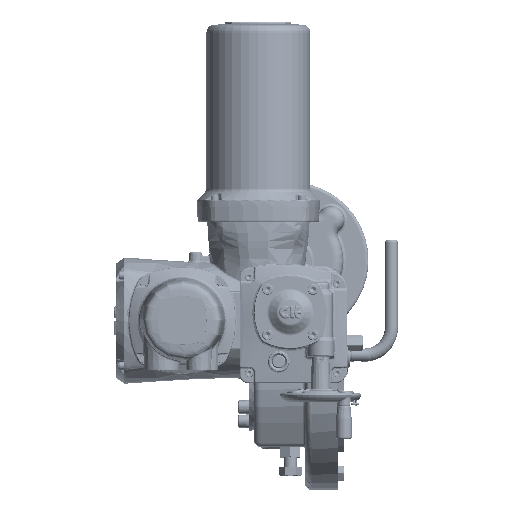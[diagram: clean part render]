
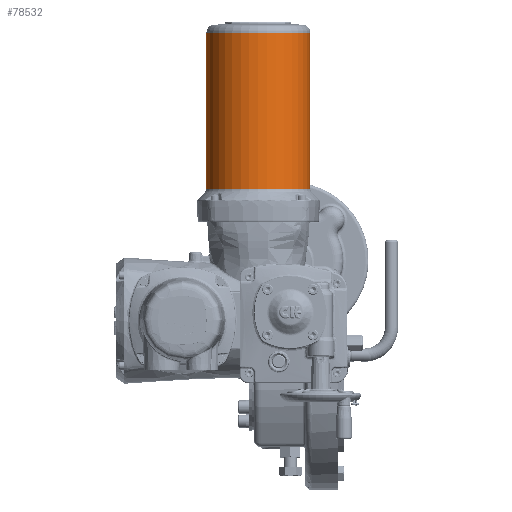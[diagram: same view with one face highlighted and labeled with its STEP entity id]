
A CAD part, top view. The second image highlights one B-rep face of the part: STEP entity #78532.
In plain terms, the highlighted cylindrical face has radius 63 mm (diameter 126 mm), a full revolution.
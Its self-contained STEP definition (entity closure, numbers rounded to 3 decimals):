
#14185=B_SPLINE_CURVE_WITH_KNOTS('',3,(#173350,#173351,#173352,#173353,
#173354,#173355,#173356,#173357,#173358,#173359,#173360,#173361,#173362,
#173363,#173364,#173365,#173366,#173367,#173368,#173369,#173370,#173371,
#173372,#173373,#173374,#173375,#173376,#173377,#173378,#173379,#173380,
#173381,#173382,#173383,#173384,#173385),.UNSPECIFIED.,.T.,.F.,(1,1,1,1,
1,1,1,1,1,1,1,1,1,1,1,1,1,1,1,1,1,1,1,1,1,1,1,1,1,1,1,1,1,1,1,1,1,1,1,1),
(-0.095,-0.064,-0.033,0.,0.03,
0.061,0.092,0.123,0.155,0.186,
0.217,0.233,0.248,0.28,
0.311,0.342,0.373,0.405,
0.436,0.467,0.498,0.53,
0.561,0.592,0.623,0.655,
0.686,0.717,0.748,0.78,
0.811,0.842,0.873,0.905,
0.936,0.967,1.,1.03,1.061,1.092),
 .UNSPECIFIED.);
#16435=CYLINDRICAL_SURFACE('',#107424,63.);
#30532=ORIENTED_EDGE('',*,*,#47665,.T.);
#30533=ORIENTED_EDGE('',*,*,#47666,.T.);
#30534=ORIENTED_EDGE('',*,*,#47638,.T.);
#47638=EDGE_CURVE('',#65838,#65838,#54881,.T.);
#47665=EDGE_CURVE('',#65860,#65860,#54891,.T.);
#47666=EDGE_CURVE('',#65861,#65861,#14185,.T.);
#54881=CIRCLE('',#107402,63.);
#54891=CIRCLE('',#107425,63.);
#58881=EDGE_LOOP('',(#30532));
#58882=EDGE_LOOP('',(#30533));
#58883=EDGE_LOOP('',(#30534));
#65838=VERTEX_POINT('',#173287);
#65860=VERTEX_POINT('',#173349);
#65861=VERTEX_POINT('',#173386);
#72580=FACE_BOUND('',#58881,.T.);
#72581=FACE_BOUND('',#58882,.T.);
#72582=FACE_BOUND('',#58883,.T.);
#78532=ADVANCED_FACE('',(#72580,#72581,#72582),#16435,.T.);
#107402=AXIS2_PLACEMENT_3D('',#173286,#120025,#120026);
#107424=AXIS2_PLACEMENT_3D('',#173347,#120086,#120087);
#107425=AXIS2_PLACEMENT_3D('',#173348,#120088,#120089);
#120025=DIRECTION('',(0.,1.,0.));
#120026=DIRECTION('',(-1.,0.,0.));
#120086=DIRECTION('',(0.,1.,0.));
#120087=DIRECTION('',(-1.,0.,0.));
#120088=DIRECTION('',(0.,-1.,0.));
#120089=DIRECTION('',(1.,0.,0.));
#173286=CARTESIAN_POINT('',(-38.8,150.002,-22.4));
#173287=CARTESIAN_POINT('',(-101.8,150.002,-22.4));
#173347=CARTESIAN_POINT('',(-38.8,81.9,-22.4));
#173348=CARTESIAN_POINT('',(-38.8,339.4,-22.4));
#173349=CARTESIAN_POINT('',(24.2,339.4,-22.4));
#173350=CARTESIAN_POINT('',(-22.968,215.843,-83.381));
#173351=CARTESIAN_POINT('',(-22.272,219.193,-83.194));
#173352=CARTESIAN_POINT('',(-22.191,222.589,-83.171));
#173353=CARTESIAN_POINT('',(-22.682,225.898,-83.305));
#173354=CARTESIAN_POINT('',(-23.767,229.1,-83.585));
#173355=CARTESIAN_POINT('',(-25.423,232.06,-83.974));
#173356=CARTESIAN_POINT('',(-27.583,234.632,-84.41));
#173357=CARTESIAN_POINT('',(-30.232,236.75,-84.836));
#173358=CARTESIAN_POINT('',(-32.726,238.019,-85.123));
#173359=CARTESIAN_POINT('',(-34.901,238.714,-85.286));
#173360=CARTESIAN_POINT('',(-37.082,239.157,-85.394));
#173361=CARTESIAN_POINT('',(-39.937,239.265,-85.42));
#173362=CARTESIAN_POINT('',(-43.255,238.653,-85.27));
#173363=CARTESIAN_POINT('',(-46.398,237.332,-84.964));
#173364=CARTESIAN_POINT('',(-49.166,235.411,-84.559));
#173365=CARTESIAN_POINT('',(-51.498,232.977,-84.119));
#173366=CARTESIAN_POINT('',(-53.338,230.131,-83.707));
#173367=CARTESIAN_POINT('',(-54.616,226.999,-83.385));
#173368=CARTESIAN_POINT('',(-55.319,223.668,-83.196));
#173369=CARTESIAN_POINT('',(-55.418,220.277,-83.169));
#173370=CARTESIAN_POINT('',(-54.921,216.911,-83.304));
#173371=CARTESIAN_POINT('',(-53.835,213.708,-83.585));
#173372=CARTESIAN_POINT('',(-52.186,210.752,-83.972));
#173373=CARTESIAN_POINT('',(-50.019,208.172,-84.409));
#173374=CARTESIAN_POINT('',(-47.382,206.057,-84.835));
#173375=CARTESIAN_POINT('',(-44.365,204.524,-85.181));
#173376=CARTESIAN_POINT('',(-41.073,203.662,-85.389));
#173377=CARTESIAN_POINT('',(-37.689,203.532,-85.421));
#173378=CARTESIAN_POINT('',(-34.33,204.151,-85.27));
#173379=CARTESIAN_POINT('',(-31.212,205.462,-84.965));
#173380=CARTESIAN_POINT('',(-28.437,207.386,-84.56));
#173381=CARTESIAN_POINT('',(-26.096,209.828,-84.118));
#173382=CARTESIAN_POINT('',(-24.27,212.654,-83.708));
#173383=CARTESIAN_POINT('',(-22.968,215.843,-83.381));
#173384=CARTESIAN_POINT('',(-22.272,219.193,-83.194));
#173385=CARTESIAN_POINT('',(-22.191,222.589,-83.171));
#173386=CARTESIAN_POINT('',(-22.362,219.317,-83.218));
